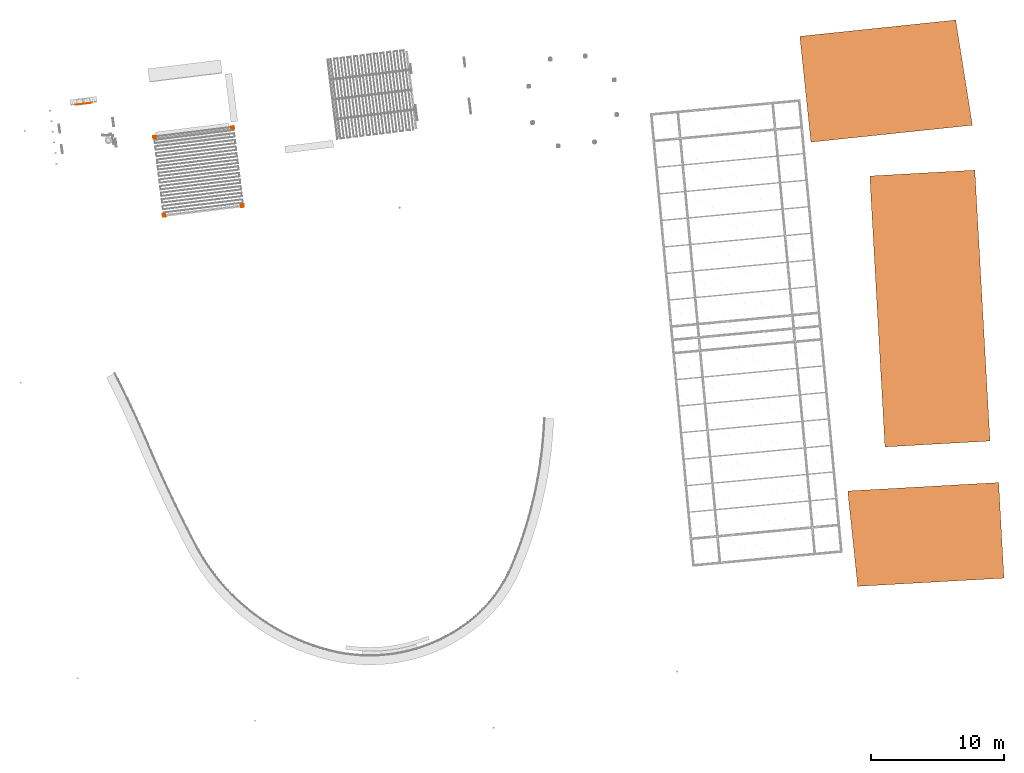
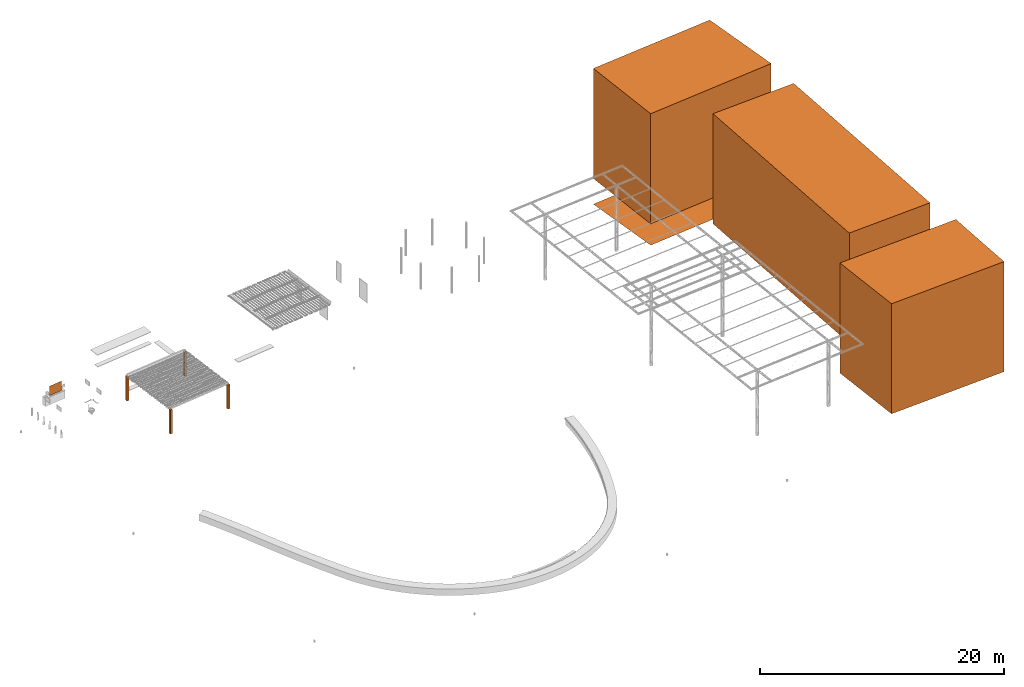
# One storey, part 10 of 10: 4 proxies.
"""IFC2X3 building model written with IfcOpenShell, lengths in metres."""

from ifc_helpers import new_model, entity, si_unit, converted_unit, derived_unit, direction, frame, frame_2d, origin, place, context, subcontext, project, spatial, polyline, rectangle, outline, extrude, face_set, surface_model, source, transform, mapped, material, type_object, type_shapes, element, save


model = new_model("IFC2X3")

# Units and contexts
model_context = context("Model", 3, precision=1e-05, world=origin(), true_north=direction((6.123031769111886e-17, 1.0)))
body_context = subcontext(model_context, "Body", "Model", "MODEL_VIEW")
ifc_project = project(units=[si_unit("LENGTHUNIT", "METRE"), si_unit("AREAUNIT", "SQUARE_METRE"), si_unit("VOLUMEUNIT", "CUBIC_METRE"), converted_unit("PLANEANGLEUNIT", "DEGREE", entity("IfcRatioMeasure", 0.017453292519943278), si_unit("PLANEANGLEUNIT", "RADIAN"), dimensions=[0, 0, 0, 0, 0, 0, 0]), si_unit("MASSUNIT", "GRAM", prefix="KILO"), derived_unit("MASSDENSITYUNIT", [(si_unit("MASSUNIT", "GRAM", prefix="KILO"), 1), (si_unit("LENGTHUNIT", "METRE"), -3)]), derived_unit("IONCONCENTRATIONUNIT", [(si_unit("MASSUNIT", "GRAM", prefix="KILO"), 1), (si_unit("LENGTHUNIT", "METRE"), -3)]), derived_unit("MOMENTOFINERTIAUNIT", [(si_unit("LENGTHUNIT", "METRE"), 4)]), si_unit("TIMEUNIT", "SECOND"), si_unit("FREQUENCYUNIT", "HERTZ"), si_unit("THERMODYNAMICTEMPERATUREUNIT", "DEGREE_CELSIUS"), derived_unit("THERMALTRANSMITTANCEUNIT", [(si_unit("MASSUNIT", "GRAM", prefix="KILO"), 1), (si_unit("THERMODYNAMICTEMPERATUREUNIT", "KELVIN"), -1), (si_unit("TIMEUNIT", "SECOND"), -3)]), derived_unit("THERMALCONDUCTANCEUNIT", [(si_unit("MASSUNIT", "GRAM", prefix="KILO"), 1), (si_unit("THERMODYNAMICTEMPERATUREUNIT", "KELVIN"), -1), (si_unit("TIMEUNIT", "SECOND"), -3), (si_unit("LENGTHUNIT", "METRE"), 1)]), derived_unit("VOLUMETRICFLOWRATEUNIT", [(si_unit("LENGTHUNIT", "METRE"), 3), (si_unit("TIMEUNIT", "SECOND"), -1)]), derived_unit("MASSFLOWRATEUNIT", [(si_unit("MASSUNIT", "GRAM", prefix="KILO"), 1), (si_unit("TIMEUNIT", "SECOND"), -1)]), derived_unit("ROTATIONALFREQUENCYUNIT", [(si_unit("TIMEUNIT", "SECOND"), -1)]), si_unit("ELECTRICCURRENTUNIT", "AMPERE"), si_unit("ELECTRICVOLTAGEUNIT", "VOLT"), si_unit("POWERUNIT", "WATT"), si_unit("FORCEUNIT", "NEWTON", prefix="KILO"), si_unit("ILLUMINANCEUNIT", "LUX"), si_unit("LUMINOUSFLUXUNIT", "LUMEN"), si_unit("LUMINOUSINTENSITYUNIT", "CANDELA"), derived_unit("USERDEFINED", [(si_unit("MASSUNIT", "GRAM", prefix="KILO"), -1), (si_unit("LENGTHUNIT", "METRE"), -2), (si_unit("TIMEUNIT", "SECOND"), 3), (si_unit("LUMINOUSFLUXUNIT", "LUMEN"), 1)]), derived_unit("USERDEFINED", [(si_unit("MASSUNIT", "GRAM", prefix="KILO"), 1), (si_unit("TIMEUNIT", "SECOND"), -3), (si_unit("LENGTHUNIT", "METRE"), 3), (si_unit("ELECTRICCURRENTUNIT", "AMPERE"), -2)]), derived_unit("SOUNDPOWERUNIT", [(si_unit("MASSUNIT", "GRAM", prefix="KILO"), 1), (si_unit("TIMEUNIT", "SECOND"), -3), (si_unit("LENGTHUNIT", "METRE"), 2)]), derived_unit("SOUNDPRESSUREUNIT", [(si_unit("MASSUNIT", "GRAM", prefix="KILO"), 1), (si_unit("LENGTHUNIT", "METRE"), -1), (si_unit("TIMEUNIT", "SECOND"), -2)]), derived_unit("LINEARVELOCITYUNIT", [(si_unit("LENGTHUNIT", "METRE"), 1), (si_unit("TIMEUNIT", "SECOND"), -1)]), si_unit("PRESSUREUNIT", "PASCAL"), derived_unit("USERDEFINED", [(si_unit("MASSUNIT", "GRAM", prefix="KILO"), 1), (si_unit("LENGTHUNIT", "METRE"), -2), (si_unit("TIMEUNIT", "SECOND"), -2)]), derived_unit("LINEARFORCEUNIT", [(si_unit("MASSUNIT", "GRAM", prefix="KILO"), 1), (si_unit("TIMEUNIT", "SECOND"), -2)]), derived_unit("PLANARFORCEUNIT", [(si_unit("MASSUNIT", "GRAM", prefix="KILO"), 1), (si_unit("LENGTHUNIT", "METRE"), -1), (si_unit("TIMEUNIT", "SECOND"), -2)]), derived_unit("SPECIFICHEATCAPACITYUNIT", [(si_unit("THERMODYNAMICTEMPERATUREUNIT", "KELVIN"), -1), (si_unit("LENGTHUNIT", "METRE"), 2), (si_unit("TIMEUNIT", "SECOND"), -2)]), derived_unit("HEATINGVALUEUNIT", [(si_unit("LENGTHUNIT", "METRE"), 2), (si_unit("TIMEUNIT", "SECOND"), -2)]), derived_unit("VAPORPERMEABILITYUNIT", [(si_unit("LENGTHUNIT", "METRE"), -1), (si_unit("TIMEUNIT", "SECOND"), 1)]), derived_unit("DYNAMICVISCOSITYUNIT", [(si_unit("MASSUNIT", "GRAM", prefix="KILO"), 1), (si_unit("TIMEUNIT", "SECOND"), -1), (si_unit("LENGTHUNIT", "METRE"), -1)]), derived_unit("THERMALEXPANSIONCOEFFICIENTUNIT", [(si_unit("THERMODYNAMICTEMPERATUREUNIT", "KELVIN"), -1)]), derived_unit("MODULUSOFELASTICITYUNIT", [(si_unit("MASSUNIT", "GRAM", prefix="KILO"), 1), (si_unit("LENGTHUNIT", "METRE"), -1), (si_unit("TIMEUNIT", "SECOND"), -2)]), derived_unit("ISOTHERMALMOISTURECAPACITYUNIT", [(si_unit("LENGTHUNIT", "METRE"), 3), (si_unit("MASSUNIT", "GRAM", prefix="KILO"), -1)]), derived_unit("MOISTUREDIFFUSIVITYUNIT", [(si_unit("TIMEUNIT", "SECOND"), -1), (si_unit("LENGTHUNIT", "METRE"), 2)])], contexts=[model_context])

# Site, building, storey
site_placement = place(None, origin())
site = spatial("IfcSite", under=ifc_project, at=site_placement, Name="Default", CompositionType="ELEMENT")
building_placement = place(site_placement, origin())
building = spatial("IfcBuilding", under=site, at=building_placement, Name="Projeto", CompositionType="ELEMENT")
storey_placement = place(building_placement, frame((0.0, 0.0, -2.581035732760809)))
storey = spatial("IfcBuildingStorey", under=building, at=storey_placement, Name="Nível 9", CompositionType="ELEMENT", Elevation=-2.581035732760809)

# Proxies
ifc_material_1 = material(Name="<Unnamed>")
building_element_proxy_type_1 = type_object("IfcBuildingElementProxyType", Name="Massa 1:Massa 1", PredefinedType="NOTDEFINED", material=ifc_material_1)
shared_shape_1 = source(origin(), body_context, "Body", "SurfaceModel", [
    surface_model("IfcFaceBasedSurfaceModel", [(14.927694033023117, 7.793757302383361, 3.8508851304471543), (15.328946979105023, 0.6150351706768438, 4.2316010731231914), (4.346176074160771, 0.0, 4.209806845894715), (3.595942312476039, 7.159179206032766, 3.8283983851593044), (6.390388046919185, 10.46804244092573, 3.6676310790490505), (5.253504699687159, 30.80775514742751, 2.5889359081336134), (13.141131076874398, 31.249462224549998, 2.6045881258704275), (14.278014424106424, 10.909749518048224, 3.6832832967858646), (0.8326125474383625, 33.35000247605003, 0.43017239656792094), (12.956701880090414, 34.62014546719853, 0.4230413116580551), (11.703494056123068, 42.521369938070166, 0.0), (0.0, 41.295289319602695, 0.0068837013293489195)], [face_set([[[0, 1, 2, 3]]]), face_set([[[4, 5, 6, 7]]]), face_set([[[8, 9, 10, 11]]])]),
])
type_shapes(building_element_proxy_type_1, [shared_shape_1])
proxy_1_placement = place(storey_placement, frame((37.07956990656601, -4.84338078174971, -1.9875969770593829)))
element("IfcBuildingElementProxy", 1, at=proxy_1_placement, inside=storey, type_object=building_element_proxy_type_1, material=ifc_material_1, Name="Massa 1:Massa 1", ObjectType="Massa 1:Massa 1", context=body_context, shape_type="MappedRepresentation", body=[
    mapped(shared_shape_1, transform((0.0, 0.0, 0.0), scale=1.0)),
])
ifc_material_2 = material(Name="3D Equip. 10")
building_element_proxy_type_2 = type_object("IfcBuildingElementProxyType", Name="Dispositivos elétricos 1:Dispositivos elétricos 1", PredefinedType="NOTDEFINED", material=ifc_material_2)
shared_shape_2 = source(origin(), body_context, "Body", "SweptSolid", [
    extrude(outline(polyline([(-3.594377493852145, -5.5873710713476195), (3.5955498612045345, -5.5873710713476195), (3.594359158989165, 5.762134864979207), (-3.595531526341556, 5.412607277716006), (-3.594377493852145, -5.5873710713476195)])), frame((46.629259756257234, -0.951387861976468, -2.0), z_axis=(0.0, 0.0, 1.0), x_axis=(-0.05580764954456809, 0.9984415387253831, 0.0)), (0.0, 0.0, 1.0), 10.999999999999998),
    extrude(outline(polyline([(-5.989371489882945, -3.994396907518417), (6.201067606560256, -3.994396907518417), (5.777922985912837, 3.9943969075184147), (-5.989619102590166, 3.9943969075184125), (-5.989371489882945, -3.994396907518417)])), frame((43.45277202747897, 33.10332101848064, -2.0), z_axis=(0.0, 0.0, 1.0), x_axis=(0.9945572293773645, 0.10419173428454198, 0.0)), (0.0, 0.0, 1.0), 10.999999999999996),
    extrude(outline(polyline([(-10.18531601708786, -3.94999222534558), (10.186144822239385, -3.9499922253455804), (10.18531601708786, 3.949992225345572), (-10.186144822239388, 3.949992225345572), (-10.18531601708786, -3.94999222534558)])), frame((46.84532946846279, 16.015371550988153, -2.0), z_axis=(0.0, 0.0, 1.0), x_axis=(-0.055807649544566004, 0.9984415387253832, 0.0)), (0.0, 0.0, 1.0), 10.999999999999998),
])
type_shapes(building_element_proxy_type_2, [shared_shape_2])
proxy_2_placement = place(storey_placement, frame((0.0, 0.0, 2.581035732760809)))
element("IfcBuildingElementProxy", 2, at=proxy_2_placement, inside=storey, type_object=building_element_proxy_type_2, material=ifc_material_2, Name="Dispositivos elétricos 1:Dispositivos elétricos 1", ObjectType="Dispositivos elétricos 1:Dispositivos elétricos 1", context=body_context, shape_type="MappedRepresentation", body=[
    mapped(shared_shape_2, transform((0.0, 0.0, 0.0), scale=1.0)),
])
ifc_material_3 = material(Name=".ET - EST METALICA")
building_element_proxy_type_3 = type_object("IfcBuildingElementProxyType", Name="Modelos genéricos 2:Modelos genéricos 2", PredefinedType="NOTDEFINED", material=ifc_material_3)
shared_shape_3 = source(origin(), body_context, "Body", "SweptSolid", [
    extrude(rectangle(XDim=0.19000000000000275, YDim=0.19226094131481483, at=frame_2d((2.706168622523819e-16, -2.213507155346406e-15), x_axis=(1.0, 0.0))), frame((-5.492919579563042, 29.58916080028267, -2.6), z_axis=(0.0, 0.0, 1.0), x_axis=(-0.9925113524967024, -0.12215242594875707, 0.0)), (0.0, 0.0, 1.0), 2.3999999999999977),
    extrude(rectangle(XDim=0.1899999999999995, YDim=0.192260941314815, at=frame_2d((8.118505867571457e-16, -2.282896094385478e-15), x_axis=(1.0, 0.0))), frame((-10.636573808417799, 23.000140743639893, -2.6), z_axis=(0.0, 0.0, 1.0), x_axis=(-0.9925113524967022, -0.12215242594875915, 0.0)), (0.0, 0.0, 1.0), 2.3999999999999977),
    extrude(rectangle(XDim=0.19000000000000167, YDim=0.19226094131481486, at=frame_2d((2.636779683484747e-16, 2.1510571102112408e-15), x_axis=(1.0, 0.0))), frame((-4.771610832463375, 23.7256213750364, -2.6), z_axis=(0.0, 0.0, 1.0), x_axis=(-0.9925113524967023, -0.12215242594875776, 0.0)), (0.0, 0.0, 1.0), 2.3999999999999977),
    extrude(rectangle(XDim=0.18999999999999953, YDim=0.192260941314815, at=frame_2d((1.339206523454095e-15, 2.0122792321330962e-15), x_axis=(1.0, 0.0))), frame((-11.358661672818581, 28.867239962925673, -2.6), z_axis=(0.0, 0.0, 1.0), x_axis=(-0.9925113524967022, -0.12215242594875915, 0.0)), (0.0, 0.0, 1.0), 2.3999999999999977),
])
type_shapes(building_element_proxy_type_3, [shared_shape_3])
proxy_3_placement = place(storey_placement, frame((0.0, 0.0, 2.581035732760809)))
element("IfcBuildingElementProxy", 3, at=proxy_3_placement, inside=storey, type_object=building_element_proxy_type_3, material=ifc_material_3, Name="Modelos genéricos 2:Modelos genéricos 2", ObjectType="Modelos genéricos 2:Modelos genéricos 2", context=body_context, shape_type="MappedRepresentation", body=[
    mapped(shared_shape_3, transform((0.0, 0.0, 0.0), scale=1.0)),
])
ifc_material_4 = material(Name="Vidro")
building_element_proxy_type_4 = type_object("IfcBuildingElementProxyType", Name="Modelos genéricos 3:Modelos genéricos 3", PredefinedType="NOTDEFINED", material=ifc_material_4)
shared_shape_4 = source(origin(), body_context, "Body", "SweptSolid", [
    extrude(rectangle(XDim=0.005000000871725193, YDim=1.2000000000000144, at=frame_2d((2.0177002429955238e-15, -1.3322676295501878e-15), x_axis=(1.0, 0.0))), frame((-16.685062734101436, 31.386124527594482, -1.5499999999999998), z_axis=(0.0, 0.0, 1.0), x_axis=(0.12215242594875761, -0.9925113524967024, 0.0)), (0.0, 0.0, 1.0), 0.9499999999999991),
])
type_shapes(building_element_proxy_type_4, [shared_shape_4])
proxy_4_placement = place(storey_placement, frame((0.0, 0.0, 2.581035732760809)))
element("IfcBuildingElementProxy", 4, at=proxy_4_placement, inside=storey, type_object=building_element_proxy_type_4, material=ifc_material_4, Name="Modelos genéricos 3:Modelos genéricos 3", ObjectType="Modelos genéricos 3:Modelos genéricos 3", context=body_context, shape_type="MappedRepresentation", body=[
    mapped(shared_shape_4, transform((0.0, 0.0, 0.0), scale=1.0)),
])

save(model, "model.ifc")
